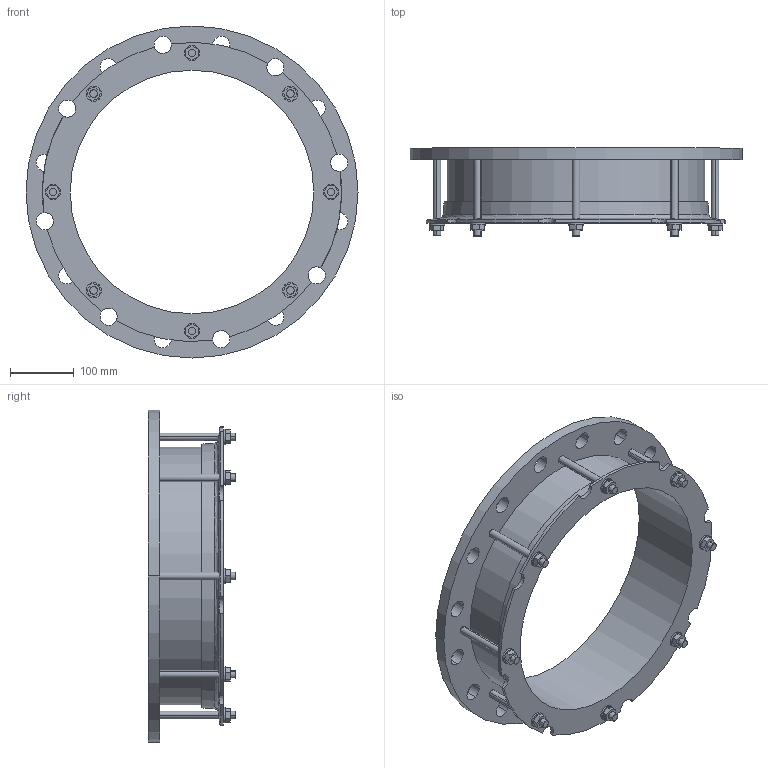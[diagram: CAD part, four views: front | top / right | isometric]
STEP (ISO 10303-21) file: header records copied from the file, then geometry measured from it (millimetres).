
FILE_DESCRIPTION((''),'2;1');
FILE_NAME('378X350PN16_8NOT','2019-01-16T',('mfairey'),('Glynwed Pipe Systems'),'CREO PARAMETRIC BY PTC INC, 2016130','CREO PARAMETRIC BY PTC INC, 2016130','');
FILE_SCHEMA(('CONFIG_CONTROL_DESIGN'));
Length unit declared in the file: millimetre
Products named in the file (1): 378X350PN16_8NOT
Bounding box: 520 x 137.45 x 520 mm (x, y, z)
Volume: 3557115.7 mm3; surface area: 612863.1 mm2
Topology: 1 solids, 1 shells, 184 faces, 490 edges, 326 vertices
Faces by surface type: cylinder 102, plane 76, cone 4, torus 2
Entity records: 6572 total; most frequent: CARTESIAN_POINT 1728, DIRECTION 1010, ORIENTED_EDGE 980, EDGE_CURVE 490, AXIS2_PLACEMENT_3D 380, VERTEX_POINT 326, EDGE_LOOP 252, VECTOR 250
